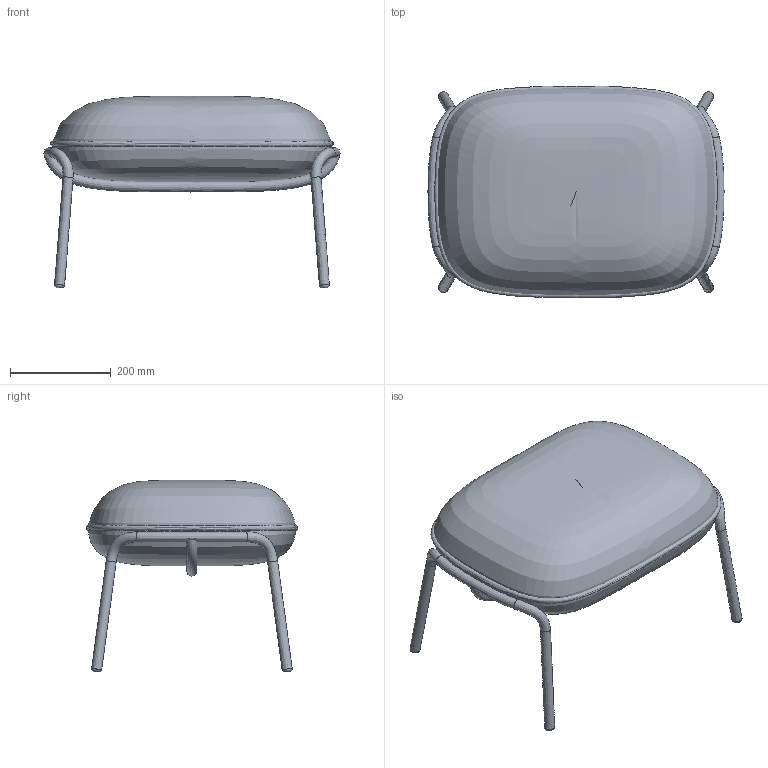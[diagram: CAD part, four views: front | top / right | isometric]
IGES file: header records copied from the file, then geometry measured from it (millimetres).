
Global section: file name: 2158 igs; native system: unknown; preprocessor: unknown; author: unknown; organization: unknown; date: 20240305.162043; units: millimetre
Bounding box: 587.65 x 420.54 x 380.01 mm (x, y, z)
Volume: 28427844.1 mm3; surface area: 745871.2 mm2
Topology: 2 solids, 2 shells, 23 faces, 639 edges, 611 vertices
Faces by surface type: bspline 19, revolution 4
